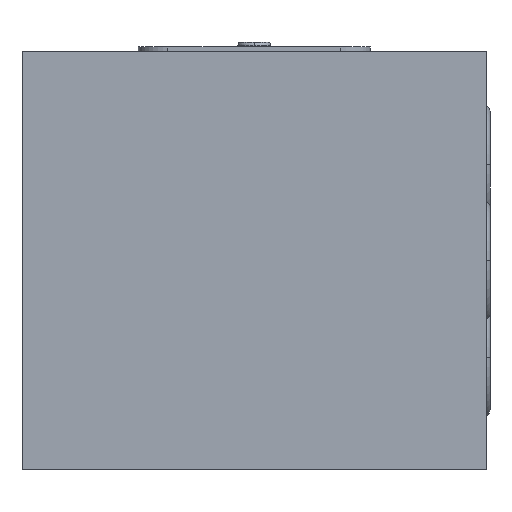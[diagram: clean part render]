
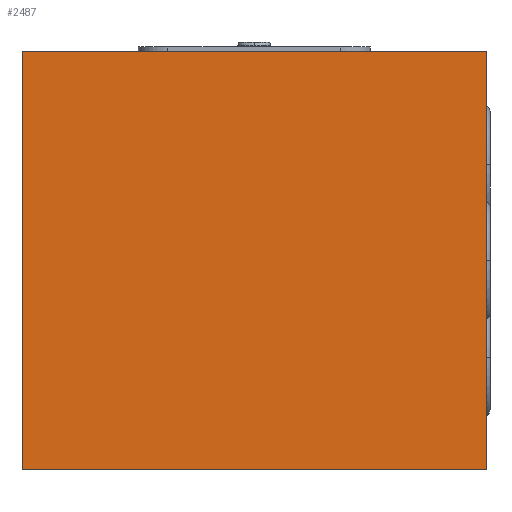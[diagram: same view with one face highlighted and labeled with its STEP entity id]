
A CAD part, left-side view. The second image highlights one B-rep face of the part: STEP entity #2487.
In plain terms, the highlighted planar face has unit normal (-1, 0, 0).
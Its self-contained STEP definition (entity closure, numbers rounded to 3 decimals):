
#52=DIRECTION('',(0.,0.,-1.));
#53=VECTOR('',#52,45.);
#54=CARTESIAN_POINT('',(0.,0.,0.));
#55=LINE('',#54,#53);
#59=DIRECTION('',(0.,1.,0.));
#60=VECTOR('',#59,50.);
#61=CARTESIAN_POINT('',(0.,0.,-45.));
#62=LINE('',#61,#60);
#66=DIRECTION('',(0.,0.,1.));
#67=VECTOR('',#66,45.);
#68=CARTESIAN_POINT('',(0.,50.,-45.));
#69=LINE('',#68,#67);
#73=DIRECTION('',(0.,-1.,0.));
#74=VECTOR('',#73,50.);
#75=CARTESIAN_POINT('',(0.,50.,0.));
#76=LINE('',#75,#74);
#2220=CARTESIAN_POINT('',(0.,0.,0.));
#2221=CARTESIAN_POINT('',(0.,0.,-45.));
#2222=VERTEX_POINT('',#2220);
#2223=VERTEX_POINT('',#2221);
#2224=CARTESIAN_POINT('',(0.,50.,-45.));
#2225=VERTEX_POINT('',#2224);
#2226=CARTESIAN_POINT('',(0.,50.,0.));
#2227=VERTEX_POINT('',#2226);
#2472=CARTESIAN_POINT('',(0.,0.,0.));
#2473=DIRECTION('',(1.,0.,0.));
#2474=DIRECTION('',(0.,0.,-1.));
#2475=AXIS2_PLACEMENT_3D('',#2472,#2473,#2474);
#2476=PLANE('',#2475);
#2478=ORIENTED_EDGE('',*,*,#2477,.T.);
#2480=ORIENTED_EDGE('',*,*,#2479,.T.);
#2482=ORIENTED_EDGE('',*,*,#2481,.T.);
#2484=ORIENTED_EDGE('',*,*,#2483,.T.);
#2485=EDGE_LOOP('',(#2478,#2480,#2482,#2484));
#2486=FACE_OUTER_BOUND('',#2485,.F.);
#2477=EDGE_CURVE('',#2222,#2223,#55,.T.);
#2479=EDGE_CURVE('',#2223,#2225,#62,.T.);
#2481=EDGE_CURVE('',#2225,#2227,#69,.T.);
#2483=EDGE_CURVE('',#2227,#2222,#76,.T.);
#2487=ADVANCED_FACE('',(#2486),#2476,.F.);
